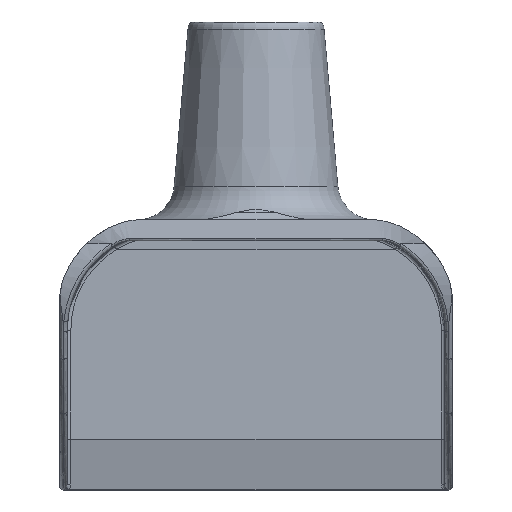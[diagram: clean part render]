
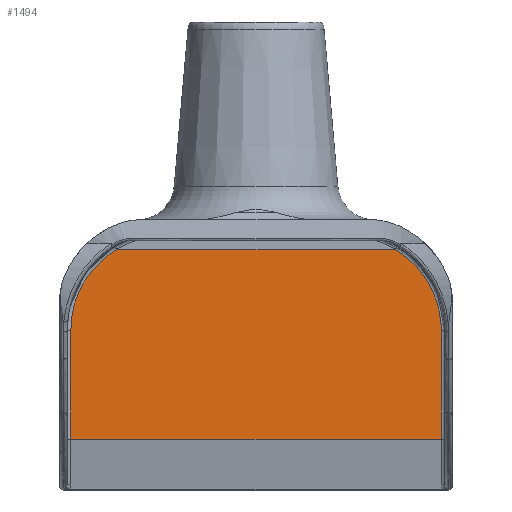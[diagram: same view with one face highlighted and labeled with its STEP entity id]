
A CAD part, top view. The second image highlights one B-rep face of the part: STEP entity #1494.
In plain terms, the highlighted planar face has unit normal (0, 0.011, 1).
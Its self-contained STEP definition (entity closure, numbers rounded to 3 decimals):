
#69=LINE('',#4074,#104);
#70=LINE('',#4298,#105);
#79=LINE('',#5228,#114);
#80=LINE('',#5281,#115);
#104=VECTOR('',#1758,10.);
#105=VECTOR('',#1765,10.);
#114=VECTOR('',#1810,10.);
#115=VECTOR('',#1815,10.);
#133=PLANE('',#1598);
#231=FACE_OUTER_BOUND('',#325,.T.);
#325=EDGE_LOOP('',(#1344,#1345,#1346,#1347,#1348,#1349));
#479=B_SPLINE_CURVE_WITH_KNOTS('',3,(#4107,#4108,#4109,#4110,#4111,#4112),
 .UNSPECIFIED.,.F.,.F.,(4,1,1,4),(-3.96,-2.829,-1.697,
0.),.UNSPECIFIED.);
#484=B_SPLINE_CURVE_WITH_KNOTS('',3,(#4224,#4225,#4226,#4227,#4228,#4229),
 .UNSPECIFIED.,.F.,.F.,(4,1,1,4),(-5.924,-4.793,-3.661,
-1.964),.UNSPECIFIED.);
#626=VERTEX_POINT('',#4071);
#627=VERTEX_POINT('',#4073);
#628=VERTEX_POINT('',#4106);
#633=VERTEX_POINT('',#4221);
#634=VERTEX_POINT('',#4223);
#636=VERTEX_POINT('',#4297);
#826=EDGE_CURVE('',#626,#627,#69,.T.);
#828=EDGE_CURVE('',#628,#626,#479,.T.);
#834=EDGE_CURVE('',#633,#634,#484,.T.);
#837=EDGE_CURVE('',#636,#633,#70,.T.);
#890=EDGE_CURVE('',#627,#636,#79,.T.);
#891=EDGE_CURVE('',#628,#634,#80,.T.);
#1344=ORIENTED_EDGE('',*,*,#837,.F.);
#1345=ORIENTED_EDGE('',*,*,#890,.F.);
#1346=ORIENTED_EDGE('',*,*,#826,.F.);
#1347=ORIENTED_EDGE('',*,*,#828,.F.);
#1348=ORIENTED_EDGE('',*,*,#891,.T.);
#1349=ORIENTED_EDGE('',*,*,#834,.F.);
#1494=ADVANCED_FACE('',(#231),#133,.F.);
#1598=AXIS2_PLACEMENT_3D('',#5280,#1813,#1814);
#1758=DIRECTION('',(0.,-1.,0.011));
#1765=DIRECTION('',(0.,1.,-0.011));
#1810=DIRECTION('',(-1.,0.,0.));
#1813=DIRECTION('center_axis',(0.,-0.011,-1.));
#1814=DIRECTION('ref_axis',(0.,1.,-0.011));
#1815=DIRECTION('',(-1.,0.,0.));
#4071=CARTESIAN_POINT('',(75.49,-44.977,1.375));
#4073=CARTESIAN_POINT('',(75.49,-89.301,1.878));
#4074=CARTESIAN_POINT('',(75.49,-78.957,1.761));
#4106=CARTESIAN_POINT('',(56.85,-12.,1.));
#4107=CARTESIAN_POINT('Ctrl Pts',(56.85,-12.,1.));
#4108=CARTESIAN_POINT('Ctrl Pts',(60.082,-13.945,1.022));
#4109=CARTESIAN_POINT('Ctrl Pts',(65.966,-18.793,1.077));
#4110=CARTESIAN_POINT('Ctrl Pts',(73.375,-29.896,1.203));
#4111=CARTESIAN_POINT('Ctrl Pts',(75.49,-39.319,1.31));
#4112=CARTESIAN_POINT('Ctrl Pts',(75.49,-44.977,1.375));
#4221=CARTESIAN_POINT('',(-75.49,-44.977,1.375));
#4223=CARTESIAN_POINT('',(-56.85,-12.,1.));
#4224=CARTESIAN_POINT('Ctrl Pts',(-75.49,-44.977,1.375));
#4225=CARTESIAN_POINT('Ctrl Pts',(-75.49,-41.205,1.332));
#4226=CARTESIAN_POINT('Ctrl Pts',(-74.372,-33.664,1.246));
#4227=CARTESIAN_POINT('Ctrl Pts',(-68.681,-21.59,1.109));
#4228=CARTESIAN_POINT('Ctrl Pts',(-61.698,-14.918,1.033));
#4229=CARTESIAN_POINT('Ctrl Pts',(-56.85,-12.,1.));
#4297=CARTESIAN_POINT('',(-75.49,-89.301,1.878));
#4298=CARTESIAN_POINT('',(-75.49,-78.957,1.761));
#5228=CARTESIAN_POINT('',(0.,-89.301,1.878));
#5280=CARTESIAN_POINT('Origin',(0.,-100.,2.));
#5281=CARTESIAN_POINT('',(0.,-12.,1.));
